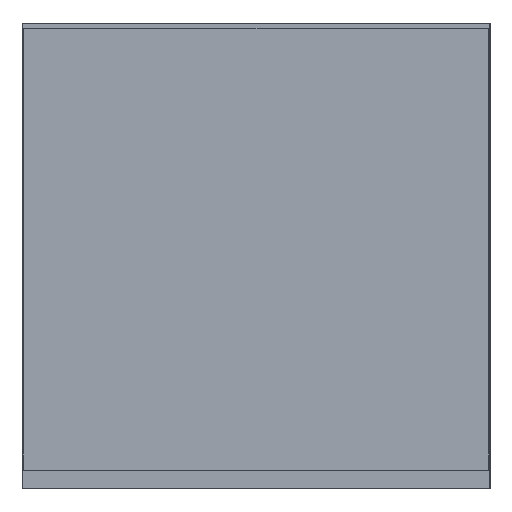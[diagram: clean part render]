
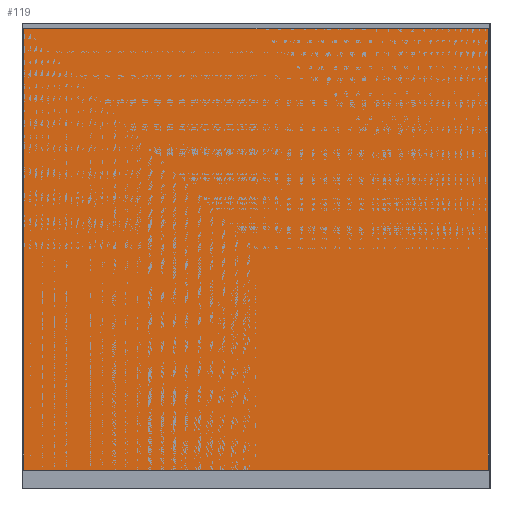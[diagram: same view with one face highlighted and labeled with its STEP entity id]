
A CAD part, left-side view. The second image highlights one B-rep face of the part: STEP entity #119.
In plain terms, the highlighted planar face has unit normal (-1, 0, 0).
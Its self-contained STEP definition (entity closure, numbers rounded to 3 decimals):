
#21 = EDGE_CURVE('',#22,#24,#26,.T.);
#22 = VERTEX_POINT('',#23);
#23 = CARTESIAN_POINT('',(-1.6,-1.25,0.12));
#24 = VERTEX_POINT('',#25);
#25 = CARTESIAN_POINT('',(-1.6,-1.25,2.5));
#26 = LINE('',#27,#28);
#27 = CARTESIAN_POINT('',(-1.6,-1.25,0.12));
#28 = VECTOR('',#29,1.);
#29 = DIRECTION('',(0.,0.,1.));
#94 = VERTEX_POINT('',#95);
#95 = CARTESIAN_POINT('',(-1.6,1.25,2.5));
#101 = EDGE_CURVE('',#102,#94,#104,.T.);
#102 = VERTEX_POINT('',#103);
#103 = CARTESIAN_POINT('',(-1.6,1.25,0.12));
#104 = LINE('',#105,#106);
#105 = CARTESIAN_POINT('',(-1.6,1.25,0.12));
#106 = VECTOR('',#107,1.);
#107 = DIRECTION('',(0.,0.,1.));
#119 = ADVANCED_FACE('',(#120),#136,.F.);
#120 = FACE_BOUND('',#121,.F.);
#121 = EDGE_LOOP('',(#122,#123,#129,#130));
#122 = ORIENTED_EDGE('',*,*,#101,.T.);
#123 = ORIENTED_EDGE('',*,*,#124,.T.);
#124 = EDGE_CURVE('',#94,#24,#125,.T.);
#125 = LINE('',#126,#127);
#126 = CARTESIAN_POINT('',(-1.6,1.25,2.5));
#127 = VECTOR('',#128,1.);
#128 = DIRECTION('',(0.,-1.,0.));
#129 = ORIENTED_EDGE('',*,*,#21,.F.);
#130 = ORIENTED_EDGE('',*,*,#131,.F.);
#131 = EDGE_CURVE('',#102,#22,#132,.T.);
#132 = LINE('',#133,#134);
#133 = CARTESIAN_POINT('',(-1.6,1.25,0.12));
#134 = VECTOR('',#135,1.);
#135 = DIRECTION('',(0.,-1.,0.));
#136 = PLANE('',#137);
#137 = AXIS2_PLACEMENT_3D('',#138,#139,#140);
#138 = CARTESIAN_POINT('',(-1.6,1.25,0.12));
#139 = DIRECTION('',(1.,0.,-0.));
#140 = DIRECTION('',(0.,-1.,0.));
